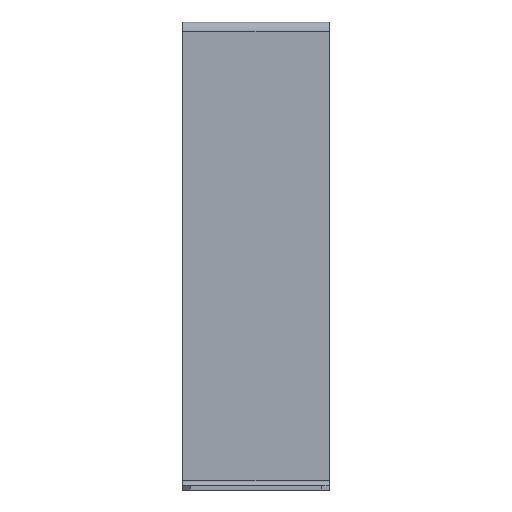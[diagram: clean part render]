
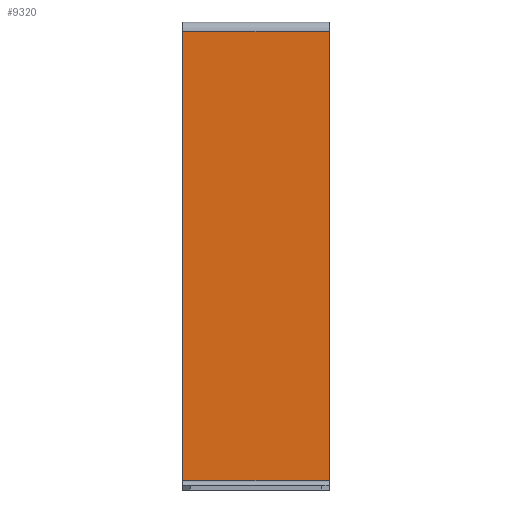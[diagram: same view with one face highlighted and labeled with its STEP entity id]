
A CAD part, left-side view. The second image highlights one B-rep face of the part: STEP entity #9320.
In plain terms, the highlighted planar face has unit normal (-1, 0, 0).
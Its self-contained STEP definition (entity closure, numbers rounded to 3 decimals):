
#8790=CARTESIAN_POINT('',(152.189,0.,-197.5));
#8800=VERTEX_POINT('',#8790);
#8890=CARTESIAN_POINT('',(152.189,95.,-197.5));
#8900=VERTEX_POINT('',#8890);
#8930=CARTESIAN_POINT('',(152.189,0.,-197.5));
#8940=DIRECTION('',(0.,-1.,0.));
#8950=VECTOR('',#8940,1.);
#8960=LINE('',#8930,#8950);
#8970=EDGE_CURVE('',#8900,#8800,#8960,.T.);
#9020=CARTESIAN_POINT('',(152.189,141.,-223.822));
#9030=DIRECTION('',(-1.,0.,0.));
#9040=DIRECTION('',(0.,0.,1.));
#9050=AXIS2_PLACEMENT_3D('',#9020,#9030,#9040);
#9060=PLANE('',#9050);
#9070=CARTESIAN_POINT('',(152.189,95.,150.457));
#9080=DIRECTION('',(0.,0.,1.));
#9090=VECTOR('',#9080,1.);
#9100=LINE('',#9070,#9090);
#9110=CARTESIAN_POINT('',(152.189,95.,93.5));
#9120=VERTEX_POINT('',#9110);
#9130=EDGE_CURVE('',#8900,#9120,#9100,.T.);
#9140=ORIENTED_EDGE('',*,*,#9130,.F.);
#9150=CARTESIAN_POINT('',(152.189,0.,93.5));
#9160=DIRECTION('',(0.,-1.,0.));
#9170=VECTOR('',#9160,1.);
#9180=LINE('',#9150,#9170);
#9190=CARTESIAN_POINT('',(152.189,0.,93.5));
#9200=VERTEX_POINT('',#9190);
#9210=EDGE_CURVE('',#9120,#9200,#9180,.T.);
#9220=ORIENTED_EDGE('',*,*,#9210,.F.);
#9230=CARTESIAN_POINT('',(152.189,0.,150.457));
#9240=DIRECTION('',(0.,0.,-1.));
#9250=VECTOR('',#9240,1.);
#9260=LINE('',#9230,#9250);
#9270=EDGE_CURVE('',#9200,#8800,#9260,.T.);
#9280=ORIENTED_EDGE('',*,*,#9270,.F.);
#9290=ORIENTED_EDGE('',*,*,#8970,.T.);
#9300=EDGE_LOOP('',(#9290,#9280,#9220,#9140));
#9310=FACE_OUTER_BOUND('',#9300,.T.);
#9320=ADVANCED_FACE('',(#9310),#9060,.T.);
